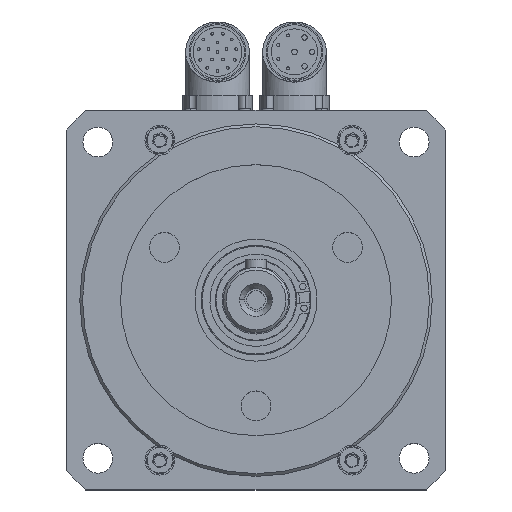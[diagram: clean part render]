
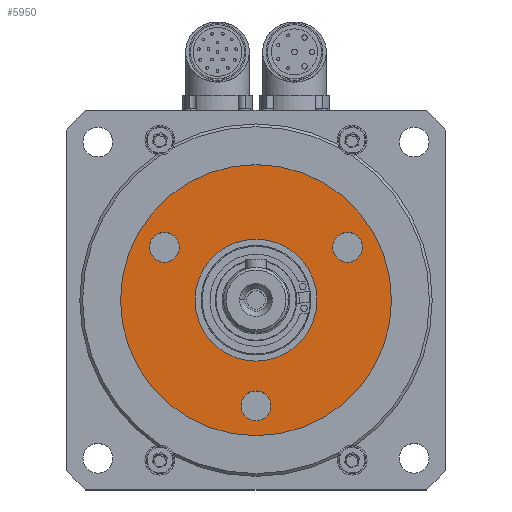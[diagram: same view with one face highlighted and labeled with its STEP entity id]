
A CAD part, top view. The second image highlights one B-rep face of the part: STEP entity #5950.
In plain terms, the highlighted planar face has unit normal (0, 0, 1).
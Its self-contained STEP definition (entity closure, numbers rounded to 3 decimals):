
#366 = CARTESIAN_POINT ( 'NONE',  ( 33.775, 19.5, 21.5 ) ) ;
#389 = DIRECTION ( 'NONE',  ( 0., 0., 1. ) ) ;
#390 = DIRECTION ( 'NONE',  ( 1., 0., 0. ) ) ;
#512 = CARTESIAN_POINT ( 'NONE',  ( 0., -39., 21.5 ) ) ;
#523 = DIRECTION ( 'NONE',  ( 0., 0., 1. ) ) ;
#524 = DIRECTION ( 'NONE',  ( 1., 0., 0. ) ) ;
#695 = AXIS2_PLACEMENT_3D ( 'NONE', #9816, #9823, #9824 ) ;
#730 = AXIS2_PLACEMENT_3D ( 'NONE', #366, #389, #390 ) ;
#774 = AXIS2_PLACEMENT_3D ( 'NONE', #9674, #9683, #9684 ) ;
#851 = AXIS2_PLACEMENT_3D ( 'NONE', #7211, #7220, #7221 ) ;
#930 = AXIS2_PLACEMENT_3D ( 'NONE', #2983, #2984, #2985 ) ;
#1084 = AXIS2_PLACEMENT_3D ( 'NONE', #14105, #14120, #14123 ) ;
#1107 = AXIS2_PLACEMENT_3D ( 'NONE', #512, #523, #524 ) ;
#2176 = CIRCLE ( 'NONE', #11273, 5.5 ) ;
#2983 = CARTESIAN_POINT ( 'NONE',  ( -33.775, 19.5, 21.5 ) ) ;
#2984 = DIRECTION ( 'NONE',  ( 0., 0., 1. ) ) ;
#2985 = DIRECTION ( 'NONE',  ( 1., 0., 0. ) ) ;
#3500 = CARTESIAN_POINT ( 'NONE',  ( 39.275, 19.5, 21.5 ) ) ;
#3518 = CARTESIAN_POINT ( 'NONE',  ( -5.5, -39., 21.5 ) ) ;
#3522 = CARTESIAN_POINT ( 'NONE',  ( -28.275, 19.5, 21.5 ) ) ;
#3543 = CARTESIAN_POINT ( 'NONE',  ( -50., 0., 21.5 ) ) ;
#3808 = CARTESIAN_POINT ( 'NONE',  ( 50., 0., 21.5 ) ) ;
#3819 = CARTESIAN_POINT ( 'NONE',  ( -39.275, 19.5, 21.5 ) ) ;
#3862 = CARTESIAN_POINT ( 'NONE',  ( 22.5, 0., 21.5 ) ) ;
#3865 = CARTESIAN_POINT ( 'NONE',  ( 28.275, 19.5, 21.5 ) ) ;
#4791 = EDGE_CURVE ( 'NONE', #14243, #13566, #15574, .T. ) ;
#4869 = EDGE_CURVE ( 'NONE', #13566, #14243, #15689, .T. ) ;
#4920 = EDGE_CURVE ( 'NONE', #14106, #8867, #15755, .T. ) ;
#4944 = EDGE_CURVE ( 'NONE', #8842, #13927, #2176, .T. ) ;
#5950 = ADVANCED_FACE ( 'NONE', ( #8328, #8344, #8348, #8352, #8332 ), #14095, .T. ) ;
#6071 = ORIENTED_EDGE ( 'NONE', *, *, #10734, .F. ) ;
#6249 = CIRCLE ( 'NONE', #930, 5.5 ) ;
#6345 = CIRCLE ( 'NONE', #851, 5.5 ) ;
#6512 = DIRECTION ( 'NONE',  ( 0., 0., 1. ) ) ;
#6513 = DIRECTION ( 'NONE',  ( 1., 0., 0. ) ) ;
#6949 = DIRECTION ( 'NONE',  ( 1., 0., 0. ) ) ;
#6950 = DIRECTION ( 'NONE',  ( 0., 0., 1. ) ) ;
#6951 = CARTESIAN_POINT ( 'NONE',  ( 0., 0., 21.5 ) ) ;
#7211 = CARTESIAN_POINT ( 'NONE',  ( -33.775, 19.5, 21.5 ) ) ;
#7220 = DIRECTION ( 'NONE',  ( 0., 0., 1. ) ) ;
#7221 = DIRECTION ( 'NONE',  ( 1., 0., 0. ) ) ;
#7842 = ORIENTED_EDGE ( 'NONE', *, *, #10433, .F. ) ;
#7844 = ORIENTED_EDGE ( 'NONE', *, *, #10507, .F. ) ;
#8328 = FACE_BOUND ( 'NONE', #12336, .T. ) ;
#8332 = FACE_BOUND ( 'NONE', #14648, .T. ) ;
#8344 = FACE_BOUND ( 'NONE', #14679, .T. ) ;
#8348 = FACE_BOUND ( 'NONE', #12238, .T. ) ;
#8352 = FACE_OUTER_BOUND ( 'NONE', #14676, .T. ) ;
#8824 = VERTEX_POINT ( 'NONE', #3500 ) ;
#8842 = VERTEX_POINT ( 'NONE', #3518 ) ;
#8846 = VERTEX_POINT ( 'NONE', #3522 ) ;
#8867 = VERTEX_POINT ( 'NONE', #3543 ) ;
#8953 = ORIENTED_EDGE ( 'NONE', *, *, #10880, .T. ) ;
#8955 = ORIENTED_EDGE ( 'NONE', *, *, #4869, .F. ) ;
#8964 = ORIENTED_EDGE ( 'NONE', *, *, #4791, .F. ) ;
#8969 = ORIENTED_EDGE ( 'NONE', *, *, #4944, .F. ) ;
#9001 = CARTESIAN_POINT ( 'NONE',  ( 0., 0., 21.5 ) ) ;
#9467 = CARTESIAN_POINT ( 'NONE',  ( 0., 0., 21.5 ) ) ;
#9468 = DIRECTION ( 'NONE',  ( 0., 0., 1. ) ) ;
#9469 = DIRECTION ( 'NONE',  ( 1., 0., 0. ) ) ;
#9530 = CARTESIAN_POINT ( 'NONE',  ( 0., -39., 21.5 ) ) ;
#9531 = DIRECTION ( 'NONE',  ( 0., 0., 1. ) ) ;
#9532 = DIRECTION ( 'NONE',  ( 1., 0., 0. ) ) ;
#9674 = CARTESIAN_POINT ( 'NONE',  ( 33.775, 19.5, 21.5 ) ) ;
#9683 = DIRECTION ( 'NONE',  ( 0., 0., 1. ) ) ;
#9684 = DIRECTION ( 'NONE',  ( 1., 0., 0. ) ) ;
#9816 = CARTESIAN_POINT ( 'NONE',  ( 0., 0., 21.5 ) ) ;
#9823 = DIRECTION ( 'NONE',  ( 0., 0., 1. ) ) ;
#9824 = DIRECTION ( 'NONE',  ( 1., 0., 0. ) ) ;
#10140 = CARTESIAN_POINT ( 'NONE',  ( -22.5, 0., 21.5 ) ) ;
#10275 = CARTESIAN_POINT ( 'NONE',  ( 5.5, -39., 21.5 ) ) ;
#10433 = EDGE_CURVE ( 'NONE', #14166, #8846, #6249, .T. ) ;
#10507 = EDGE_CURVE ( 'NONE', #8846, #14166, #6345, .T. ) ;
#10734 = EDGE_CURVE ( 'NONE', #8824, #14241, #11868, .T. ) ;
#10773 = EDGE_CURVE ( 'NONE', #13927, #8842, #11923, .T. ) ;
#10828 = EDGE_CURVE ( 'NONE', #14241, #8824, #11996, .T. ) ;
#10880 = EDGE_CURVE ( 'NONE', #8867, #14106, #12066, .T. ) ;
#11163 = AXIS2_PLACEMENT_3D ( 'NONE', #9001, #6512, #6513 ) ;
#11195 = AXIS2_PLACEMENT_3D ( 'NONE', #6951, #6950, #6949 ) ;
#11269 = AXIS2_PLACEMENT_3D ( 'NONE', #9467, #9468, #9469 ) ;
#11273 = AXIS2_PLACEMENT_3D ( 'NONE', #9530, #9531, #9532 ) ;
#11570 = ORIENTED_EDGE ( 'NONE', *, *, #10828, .F. ) ;
#11571 = ORIENTED_EDGE ( 'NONE', *, *, #10773, .F. ) ;
#11868 = CIRCLE ( 'NONE', #730, 5.5 ) ;
#11923 = CIRCLE ( 'NONE', #1107, 5.5 ) ;
#11996 = CIRCLE ( 'NONE', #774, 5.5 ) ;
#12066 = CIRCLE ( 'NONE', #695, 50. ) ;
#12238 = EDGE_LOOP ( 'NONE', ( #11571, #8969 ) ) ;
#12336 = EDGE_LOOP ( 'NONE', ( #7844, #7842 ) ) ;
#12593 = ORIENTED_EDGE ( 'NONE', *, *, #4920, .T. ) ;
#13566 = VERTEX_POINT ( 'NONE', #10140 ) ;
#13927 = VERTEX_POINT ( 'NONE', #10275 ) ;
#14095 = PLANE ( 'NONE',  #1084 ) ;
#14105 = CARTESIAN_POINT ( 'NONE',  ( 0., 50., 21.5 ) ) ;
#14106 = VERTEX_POINT ( 'NONE', #3808 ) ;
#14120 = DIRECTION ( 'NONE',  ( 0., 0., 1. ) ) ;
#14123 = DIRECTION ( 'NONE',  ( 1., 0., 0. ) ) ;
#14166 = VERTEX_POINT ( 'NONE', #3819 ) ;
#14241 = VERTEX_POINT ( 'NONE', #3865 ) ;
#14243 = VERTEX_POINT ( 'NONE', #3862 ) ;
#14648 = EDGE_LOOP ( 'NONE', ( #8964, #8955 ) ) ;
#14676 = EDGE_LOOP ( 'NONE', ( #12593, #8953 ) ) ;
#14679 = EDGE_LOOP ( 'NONE', ( #6071, #11570 ) ) ;
#15574 = CIRCLE ( 'NONE', #11195, 22.5 ) ;
#15689 = CIRCLE ( 'NONE', #11163, 22.5 ) ;
#15755 = CIRCLE ( 'NONE', #11269, 50. ) ;
